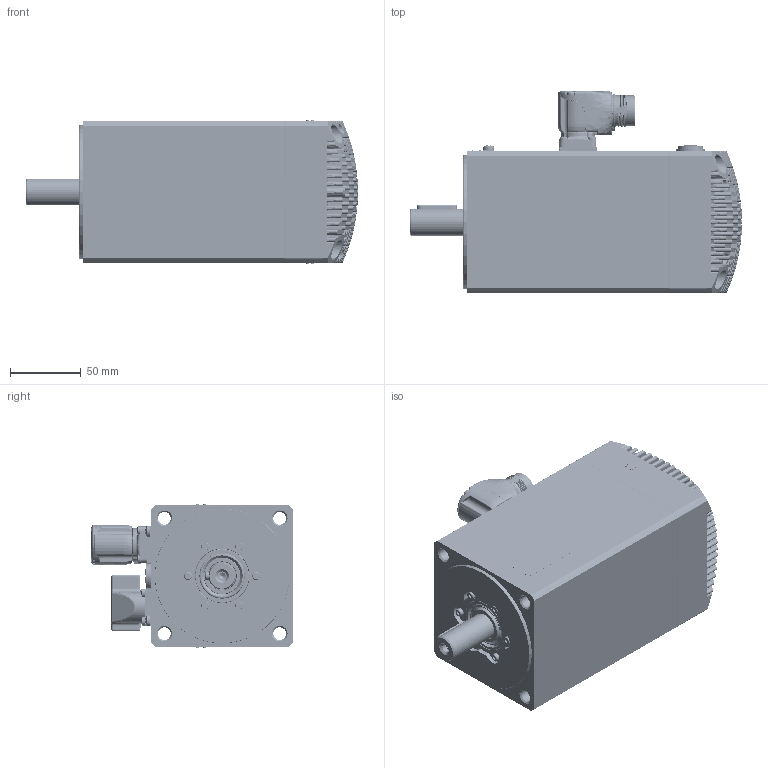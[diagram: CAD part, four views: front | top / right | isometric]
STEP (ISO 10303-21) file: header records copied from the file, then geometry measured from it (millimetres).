
FILE_DESCRIPTION((''),'2;1');
FILE_NAME('32190015748_ASM','2022-04-13T09:56:52',('gabrielec'),(''),'CREO PARAMETRIC BY PTC INC, 2021304','CREO PARAMETRIC BY PTC INC, 2021304','');
FILE_SCHEMA(('AP242_MANAGED_MODEL_BASED_3D_ENGINEERING_MIM_LF { 1 0 10303 442 1 1 4 }'));
Products named in the file (37): 52580N-0; 32149915564_ASM; 22320015080; 22320015080_ASM; 32050015015_ASM; 32060015581_ASM; 51941N-1; 32090015035_ASM; NRG_001; M3X16_GBT70-1; GB_T862_1; M4X8_GBT818_CU; 51093N-0; 32159915248_ASM; 22160015160; MENTOR-1292_9013; CEMBRE_FD9; CEMBRE_2053M16N; 32150015177_ASM; UNI7687_M3X8_INOX; CORPO_3; 33200303857_AF13_ASM; 31500303857_AF9_ASM; 50941N-0; UNI7687_M3X6_INOX; UNI5931_M3X6_INOX; 22210015021; 32150015176_ASM; UNI5931_M4X16; LIP_SEAL_TW05; 22250015024; 22250015126; 43500000229; 43500000050; L_6X6-28_UNI6604; PHOENIX_1605512; 32190015748_ASM
Assembly tree (64 placements, depth 7):
  32190015748_ASM
    32159915248_ASM
      32149915564_ASM
        52580N-0
      32090015035_ASM
        32060015581_ASM
          32050015015_ASM
            22320015080_ASM
              22320015080
        51941N-1
      NRG_001  x6
      M3X16_GBT70-1  x6
      GB_T862_1  x2
      M4X8_GBT818_CU  x2
      51093N-0
    32150015177_ASM
      22160015160
      MENTOR-1292_9013  x8
      CEMBRE_FD9
      CEMBRE_2053M16N
    UNI7687_M3X8_INOX  x4
    31500303857_AF9_ASM
      33200303857_AF13_ASM
        CORPO_3
    50941N-0  x2
    UNI7687_M3X6_INOX  x3
    UNI5931_M3X6_INOX
    32150015176_ASM
      22210015021
    UNI5931_M4X16  x4
    LIP_SEAL_TW05
    22250015024
    22250015126
    43500000229
    43500000050
    L_6X6-28_UNI6604
    PHOENIX_1605512
Bounding box: 234 x 142.41 x 100.8 mm (x, y, z)
Volume: 719021.9 mm3; surface area: 348728.2 mm2
Topology: 74 solids, 100 shells, 4452 faces, 11199 edges, 7094 vertices
Faces by surface type: plane 1489, cylinder 1089, cone 657, bspline 596, torus 356, sphere 243, revolution 11, extrusion 11
Entity records: 191640 total; most frequent: CARTESIAN_POINT 66923, ORIENTED_EDGE 19706, DIRECTION 17850, PRESENTATION_STYLE_ASSIGNMENT 10110, STYLED_ITEM 9935, EDGE_CURVE 9906, CURVE_STYLE 9862, AXIS2_PLACEMENT_3D 6985
